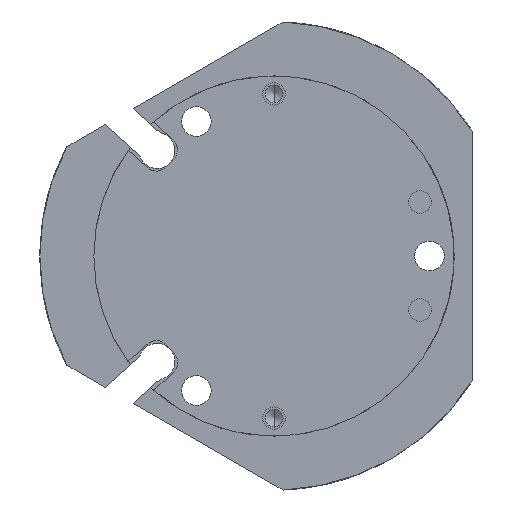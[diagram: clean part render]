
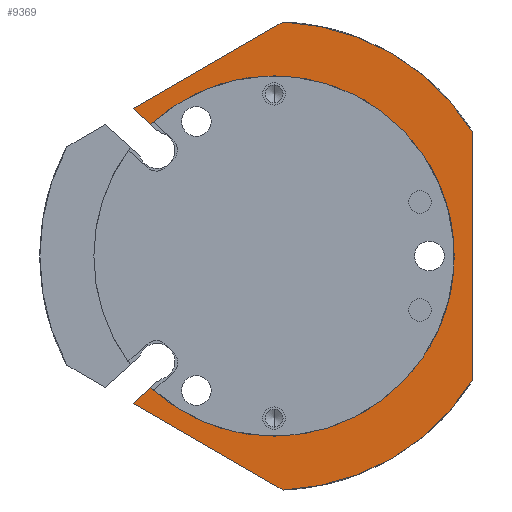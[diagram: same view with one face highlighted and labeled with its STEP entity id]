
A CAD part, front view. The second image highlights one B-rep face of the part: STEP entity #9369.
In plain terms, the highlighted planar face has unit normal (0, -1, 0).
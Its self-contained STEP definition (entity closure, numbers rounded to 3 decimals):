
#102 = DIRECTION ( 'NONE',  ( 0., 0., -1. ) ) ;
#344 = CARTESIAN_POINT ( 'NONE',  ( 22., -13.5, -13.856 ) ) ;
#477 = CARTESIAN_POINT ( 'NONE',  ( 0., -13.5, 0. ) ) ;
#479 = ORIENTED_EDGE ( 'NONE', *, *, #14490, .T. ) ;
#533 = DIRECTION ( 'NONE',  ( 0., -1., 0. ) ) ;
#541 = CARTESIAN_POINT ( 'NONE',  ( -13.672, -13.5, -14.598 ) ) ;
#607 = ORIENTED_EDGE ( 'NONE', *, *, #961, .F. ) ;
#686 = DIRECTION ( 'NONE',  ( 0.743, 0., 0.669 ) ) ;
#961 = EDGE_CURVE ( 'NONE', #3066, #11347, #2775, .T. ) ;
#1123 = FACE_OUTER_BOUND ( 'NONE', #6103, .T. ) ;
#1161 = LINE ( 'NONE', #14782, #12664 ) ;
#1687 = CARTESIAN_POINT ( 'NONE',  ( 22., -13.5, 13.856 ) ) ;
#1715 = VERTEX_POINT ( 'NONE', #541 ) ;
#2020 = DIRECTION ( 'NONE',  ( -0.866, 0., -0.5 ) ) ;
#2092 = AXIS2_PLACEMENT_3D ( 'NONE', #11950, #7163, #14347 ) ;
#2123 = CARTESIAN_POINT ( 'NONE',  ( 22., -13.5, 0. ) ) ;
#2417 = LINE ( 'NONE', #10157, #3558 ) ;
#2775 = CIRCLE ( 'NONE', #5894, 20. ) ;
#2779 = CARTESIAN_POINT ( 'NONE',  ( 0., -13.5, 20. ) ) ;
#2805 = EDGE_CURVE ( 'NONE', #1715, #10038, #11217, .T. ) ;
#2932 = DIRECTION ( 'NONE',  ( 0., -1., 0. ) ) ;
#3066 = VERTEX_POINT ( 'NONE', #2779 ) ;
#3270 = PLANE ( 'NONE',  #11094 ) ;
#3558 = VECTOR ( 'NONE', #4005, 1000. ) ;
#3802 = VECTOR ( 'NONE', #2020, 1000. ) ;
#3947 = VERTEX_POINT ( 'NONE', #1687 ) ;
#4005 = DIRECTION ( 'NONE',  ( 0.743, 0., -0.669 ) ) ;
#4190 = CIRCLE ( 'NONE', #5270, 20. ) ;
#4839 = LINE ( 'NONE', #7750, #12556 ) ;
#4853 = CIRCLE ( 'NONE', #12310, 26. ) ;
#4933 = VECTOR ( 'NONE', #10699, 1000. ) ;
#5009 = ORIENTED_EDGE ( 'NONE', *, *, #5743, .F. ) ;
#5011 = DIRECTION ( 'NONE',  ( 0.866, 0., -0.5 ) ) ;
#5270 = AXIS2_PLACEMENT_3D ( 'NONE', #477, #2932, #11354 ) ;
#5575 = EDGE_CURVE ( 'NONE', #10038, #3066, #4190, .T. ) ;
#5649 = ORIENTED_EDGE ( 'NONE', *, *, #8902, .T. ) ;
#5712 = DIRECTION ( 'NONE',  ( 0., -1., 0. ) ) ;
#5743 = EDGE_CURVE ( 'NONE', #15171, #1715, #4839, .T. ) ;
#5894 = AXIS2_PLACEMENT_3D ( 'NONE', #10821, #7369, #102 ) ;
#6103 = EDGE_LOOP ( 'NONE', ( #6375, #8551, #5649, #607, #12374, #8688, #5009, #12993, #14019, #479 ) ) ;
#6375 = ORIENTED_EDGE ( 'NONE', *, *, #15684, .T. ) ;
#6733 = CARTESIAN_POINT ( 'NONE',  ( 1., -13.5, -25.981 ) ) ;
#7163 = DIRECTION ( 'NONE',  ( 0., -1., 0. ) ) ;
#7167 = CARTESIAN_POINT ( 'NONE',  ( -13.672, -13.5, 14.598 ) ) ;
#7369 = DIRECTION ( 'NONE',  ( 0., -1., 0. ) ) ;
#7750 = CARTESIAN_POINT ( 'NONE',  ( -12.65, -13.5, -13.678 ) ) ;
#8109 = EDGE_CURVE ( 'NONE', #11725, #9611, #13246, .T. ) ;
#8551 = ORIENTED_EDGE ( 'NONE', *, *, #14383, .T. ) ;
#8688 = ORIENTED_EDGE ( 'NONE', *, *, #2805, .F. ) ;
#8774 = EDGE_CURVE ( 'NONE', #15171, #11725, #1161, .T. ) ;
#8875 = CARTESIAN_POINT ( 'NONE',  ( 0., -13.5, 0. ) ) ;
#8902 = EDGE_CURVE ( 'NONE', #14132, #11347, #2417, .T. ) ;
#9369 = ADVANCED_FACE ( 'NONE', ( #1123 ), #3270, .T. ) ;
#9611 = VERTEX_POINT ( 'NONE', #344 ) ;
#10038 = VERTEX_POINT ( 'NONE', #11672 ) ;
#10157 = CARTESIAN_POINT ( 'NONE',  ( -15.643, -13.5, 16.372 ) ) ;
#10427 = AXIS2_PLACEMENT_3D ( 'NONE', #13590, #12326, #14613 ) ;
#10699 = DIRECTION ( 'NONE',  ( 0., 0., 1. ) ) ;
#10821 = CARTESIAN_POINT ( 'NONE',  ( 0., -13.5, 0. ) ) ;
#10926 = CARTESIAN_POINT ( 'NONE',  ( -15.643, -13.5, 16.372 ) ) ;
#11094 = AXIS2_PLACEMENT_3D ( 'NONE', #15289, #5712, #14157 ) ;
#11217 = CIRCLE ( 'NONE', #2092, 20. ) ;
#11307 = DIRECTION ( 'NONE',  ( 0., 0., 1. ) ) ;
#11347 = VERTEX_POINT ( 'NONE', #7167 ) ;
#11354 = DIRECTION ( 'NONE',  ( 0., 0., -1. ) ) ;
#11449 = CARTESIAN_POINT ( 'NONE',  ( 1., -13.5, 25.981 ) ) ;
#11672 = CARTESIAN_POINT ( 'NONE',  ( 0., -13.5, -20. ) ) ;
#11725 = VERTEX_POINT ( 'NONE', #6733 ) ;
#11950 = CARTESIAN_POINT ( 'NONE',  ( 0., -13.5, 0. ) ) ;
#12286 = LINE ( 'NONE', #2123, #4933 ) ;
#12310 = AXIS2_PLACEMENT_3D ( 'NONE', #8875, #533, #11307 ) ;
#12326 = DIRECTION ( 'NONE',  ( 0., -1., 0. ) ) ;
#12374 = ORIENTED_EDGE ( 'NONE', *, *, #5575, .F. ) ;
#12556 = VECTOR ( 'NONE', #686, 1000. ) ;
#12664 = VECTOR ( 'NONE', #5011, 1000. ) ;
#12993 = ORIENTED_EDGE ( 'NONE', *, *, #8774, .T. ) ;
#13246 = CIRCLE ( 'NONE', #10427, 26. ) ;
#13322 = VERTEX_POINT ( 'NONE', #14247 ) ;
#13590 = CARTESIAN_POINT ( 'NONE',  ( 0., -13.5, 0. ) ) ;
#14019 = ORIENTED_EDGE ( 'NONE', *, *, #8109, .T. ) ;
#14132 = VERTEX_POINT ( 'NONE', #10926 ) ;
#14157 = DIRECTION ( 'NONE',  ( 0., 0., -1. ) ) ;
#14197 = LINE ( 'NONE', #11449, #3802 ) ;
#14247 = CARTESIAN_POINT ( 'NONE',  ( 1., -13.5, 25.981 ) ) ;
#14347 = DIRECTION ( 'NONE',  ( 0., 0., -1. ) ) ;
#14383 = EDGE_CURVE ( 'NONE', #13322, #14132, #14197, .T. ) ;
#14490 = EDGE_CURVE ( 'NONE', #9611, #3947, #12286, .T. ) ;
#14613 = DIRECTION ( 'NONE',  ( 0., 0., 1. ) ) ;
#14782 = CARTESIAN_POINT ( 'NONE',  ( -15.643, -13.5, -16.372 ) ) ;
#15160 = CARTESIAN_POINT ( 'NONE',  ( -15.643, -13.5, -16.372 ) ) ;
#15171 = VERTEX_POINT ( 'NONE', #15160 ) ;
#15289 = CARTESIAN_POINT ( 'NONE',  ( 0., -13.5, 0. ) ) ;
#15684 = EDGE_CURVE ( 'NONE', #3947, #13322, #4853, .T. ) ;
